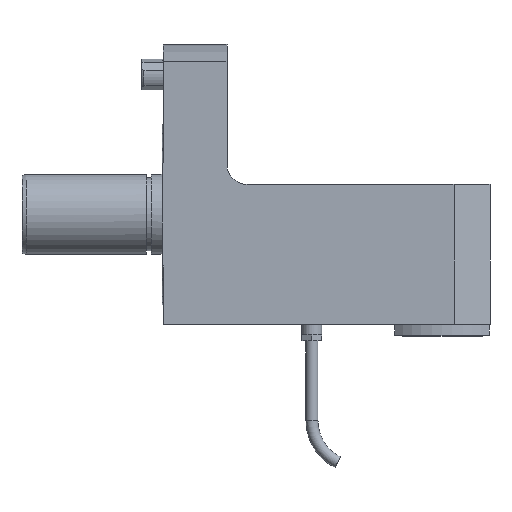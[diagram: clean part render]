
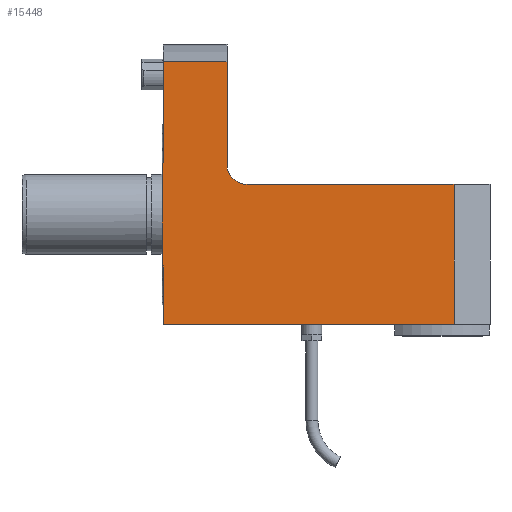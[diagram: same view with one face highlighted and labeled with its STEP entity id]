
A CAD part, front view. The second image highlights one B-rep face of the part: STEP entity #15448.
In plain terms, the highlighted planar face has unit normal (0, -1, 0).
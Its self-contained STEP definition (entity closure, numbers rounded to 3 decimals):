
#7067=HYPERBOLA('',#14967,37.5,37.5);
#7069=HYPERBOLA('',#14977,37.5,37.5);
#7097=CIRCLE('',#14988,10.);
#7243=ORIENTED_EDGE('',*,*,#9547,.T.);
#7244=ORIENTED_EDGE('',*,*,#9550,.F.);
#7245=ORIENTED_EDGE('',*,*,#9553,.T.);
#7246=ORIENTED_EDGE('',*,*,#9554,.T.);
#7247=ORIENTED_EDGE('',*,*,#9504,.T.);
#7248=ORIENTED_EDGE('',*,*,#9516,.T.);
#7249=ORIENTED_EDGE('',*,*,#9520,.T.);
#7250=ORIENTED_EDGE('',*,*,#9526,.T.);
#7251=ORIENTED_EDGE('',*,*,#9529,.T.);
#7252=ORIENTED_EDGE('',*,*,#9533,.T.);
#7253=ORIENTED_EDGE('',*,*,#9555,.F.);
#8444=VECTOR('',#10789,1.);
#8452=VECTOR('',#10817,1.);
#8455=VECTOR('',#10836,1.);
#8459=VECTOR('',#10842,1.);
#8470=VECTOR('',#10865,1.);
#8474=VECTOR('',#10877,1.);
#8475=VECTOR('',#10878,1.);
#8476=VECTOR('',#10879,1.);
#8753=LINE('',#11763,#8444);
#8761=LINE('',#11793,#8452);
#8764=LINE('',#11811,#8455);
#8768=LINE('',#11819,#8459);
#8779=LINE('',#11848,#8470);
#8783=LINE('',#11859,#8474);
#8784=LINE('',#11860,#8475);
#8785=LINE('',#11861,#8476);
#9069=VERTEX_POINT('',#11760);
#9070=VERTEX_POINT('',#11762);
#9079=VERTEX_POINT('',#11783);
#9082=VERTEX_POINT('',#11791);
#9087=VERTEX_POINT('',#11803);
#9089=VERTEX_POINT('',#11809);
#9092=VERTEX_POINT('',#11817);
#9102=VERTEX_POINT('',#11844);
#9104=VERTEX_POINT('',#11847);
#9105=VERTEX_POINT('',#11852);
#9107=VERTEX_POINT('',#11858);
#9504=EDGE_CURVE('',#9070,#9069,#8753,.T.);
#9516=EDGE_CURVE('',#9069,#9079,#7067,.T.);
#9520=EDGE_CURVE('',#9079,#9082,#8761,.T.);
#9526=EDGE_CURVE('',#9082,#9087,#7069,.T.);
#9529=EDGE_CURVE('',#9087,#9089,#8764,.T.);
#9533=EDGE_CURVE('',#9089,#9092,#8768,.T.);
#9547=EDGE_CURVE('',#9104,#9102,#8779,.T.);
#9550=EDGE_CURVE('',#9105,#9102,#7097,.T.);
#9553=EDGE_CURVE('',#9105,#9107,#8783,.T.);
#9554=EDGE_CURVE('',#9107,#9070,#8784,.T.);
#9555=EDGE_CURVE('',#9104,#9092,#8785,.T.);
#10148=EDGE_LOOP('',(#7243,#7244,#7245,#7246,#7247,#7248,#7249,#7250,#7251,
#7252,#7253));
#10461=FACE_BOUND('',#10148,.T.);
#10789=DIRECTION('',(0.,0.,-50.513));
#10807=DIRECTION('',(0.,1.,0.));
#10808=DIRECTION('',(1.,0.,0.));
#10817=DIRECTION('',(0.,0.,-49.749));
#10829=DIRECTION('',(0.,1.,0.));
#10830=DIRECTION('',(1.,0.,0.));
#10836=DIRECTION('',(0.,0.,-29.232));
#10842=DIRECTION('',(145.5,0.,0.));
#10865=DIRECTION('',(-103.5,0.,0.));
#10870=DIRECTION('',(0.,-1.,0.));
#10871=DIRECTION('',(0.,0.,10.));
#10875=DIRECTION('',(0.,-1.,0.));
#10876=DIRECTION('',(-1.,0.,0.));
#10877=DIRECTION('',(0.,0.,51.281));
#10878=DIRECTION('',(-32.,0.,0.));
#10879=DIRECTION('',(0.,0.,-70.));
#11760=CARTESIAN_POINT('',(0.5,-37.5,25.768));
#11762=CARTESIAN_POINT('',(0.5,-37.5,76.281));
#11763=CARTESIAN_POINT('',(0.5,-37.5,76.281));
#11783=CARTESIAN_POINT('',(0.,-37.5,24.875));
#11785=CARTESIAN_POINT('',(-45.,-37.5,0.));
#11791=CARTESIAN_POINT('',(0.,-37.5,-24.875));
#11793=CARTESIAN_POINT('',(0.,-37.5,24.875));
#11803=CARTESIAN_POINT('',(0.5,-37.5,-25.768));
#11805=CARTESIAN_POINT('',(-45.,-37.5,0.));
#11809=CARTESIAN_POINT('',(0.5,-37.5,-55.));
#11811=CARTESIAN_POINT('',(0.5,-37.5,-25.768));
#11817=CARTESIAN_POINT('',(146.,-37.5,-55.));
#11819=CARTESIAN_POINT('',(0.5,-37.5,-55.));
#11844=CARTESIAN_POINT('',(42.5,-37.5,15.));
#11847=CARTESIAN_POINT('',(146.,-37.5,15.));
#11848=CARTESIAN_POINT('',(146.,-37.5,15.));
#11852=CARTESIAN_POINT('',(32.5,-37.5,25.));
#11853=CARTESIAN_POINT('',(42.5,-37.5,25.));
#11857=CARTESIAN_POINT('',(146.,-37.5,15.));
#11858=CARTESIAN_POINT('',(32.5,-37.5,76.281));
#11859=CARTESIAN_POINT('',(32.5,-37.5,25.));
#11860=CARTESIAN_POINT('',(32.5,-37.5,76.281));
#11861=CARTESIAN_POINT('',(146.,-37.5,15.));
#14967=AXIS2_PLACEMENT_3D('',#11785,#10807,#10808);
#14977=AXIS2_PLACEMENT_3D('',#11805,#10829,#10830);
#14988=AXIS2_PLACEMENT_3D('',#11853,#10870,#10871);
#14990=AXIS2_PLACEMENT_3D('',#11857,#10875,#10876);
#15287=PLANE('',#14990);
#15448=ADVANCED_FACE('',(#10461),#15287,.T.);
